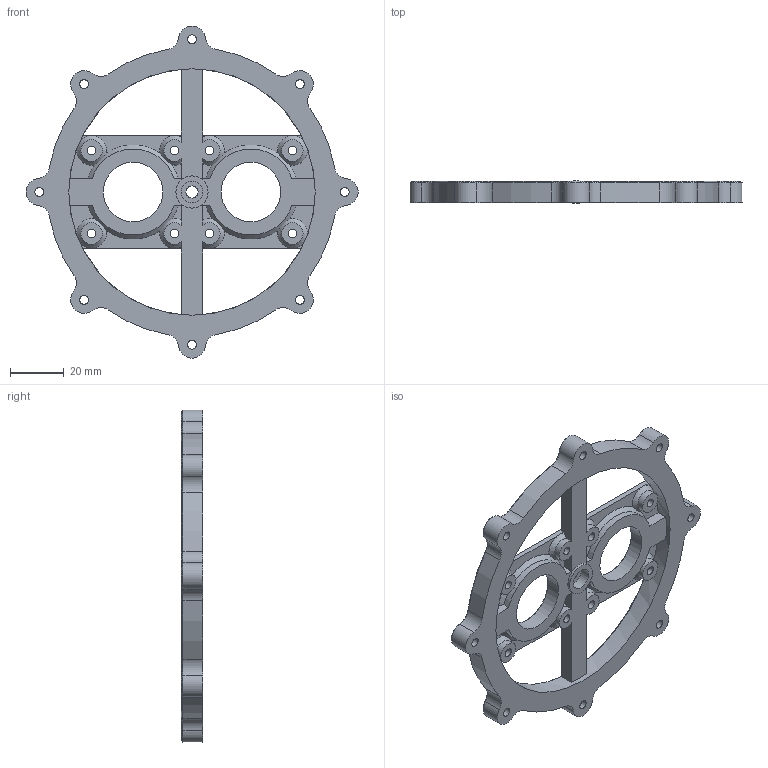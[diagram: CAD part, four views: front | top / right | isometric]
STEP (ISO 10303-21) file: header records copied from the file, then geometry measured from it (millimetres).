
FILE_DESCRIPTION(/* description */ (''),/* implementation_level */ '2;1');
FILE_NAME(/* name */ 'X:\Develop\CAD\NakataOmni\DriveUnitR3\UpperCaseTL.stp',/* time_stamp */ '2024-05-27T00:10:04+09:00',/* author */ ('kumagai'),/* organization */ (''),/* preprocessor_version */ 'ST-DEVELOPER v19',/* originating_system */ 'Autodesk Inventor 2023',/* authorisation */ '');
FILE_SCHEMA (('AUTOMOTIVE_DESIGN { 1 0 10303 214 3 1 1 }'));
Length unit declared in the file: millimetre
Products named in the file (1): UpperCaseTL
Bounding box: 123.96 x 8 x 123.96 mm (x, y, z)
Volume: 39612.6 mm3; surface area: 22066.5 mm2
Topology: 1 solids, 1 shells, 169 faces, 458 edges, 290 vertices
Faces by surface type: cylinder 66, plane 53, cone 50
Full cylindrical faces by diameter (mm): 3.2 x8, 3.3 x8, 4.5 x1, 8 x5, 12 x1, 22.2 x2, 92 x1
Entity records: 5565 total; most frequent: CARTESIAN_POINT 1066, DIRECTION 992, ORIENTED_EDGE 916, EDGE_CURVE 458, AXIS2_PLACEMENT_3D 400, VERTEX_POINT 290, CIRCLE 230, EDGE_LOOP 214
